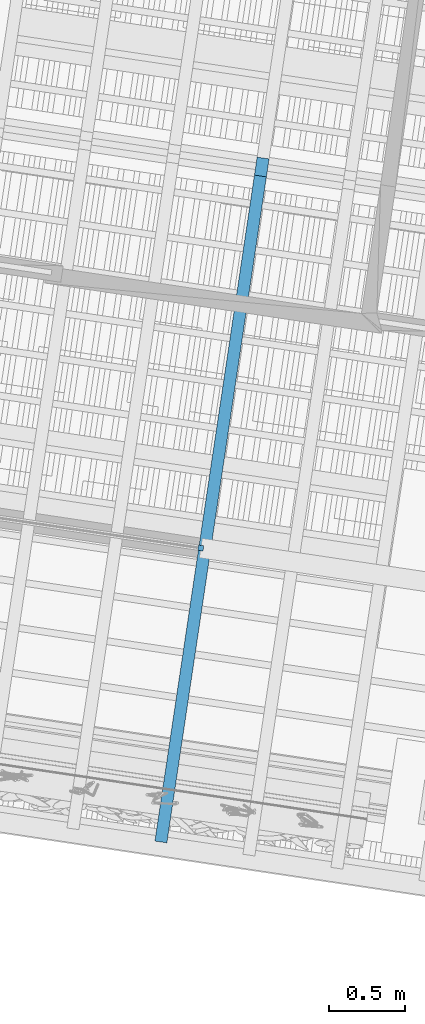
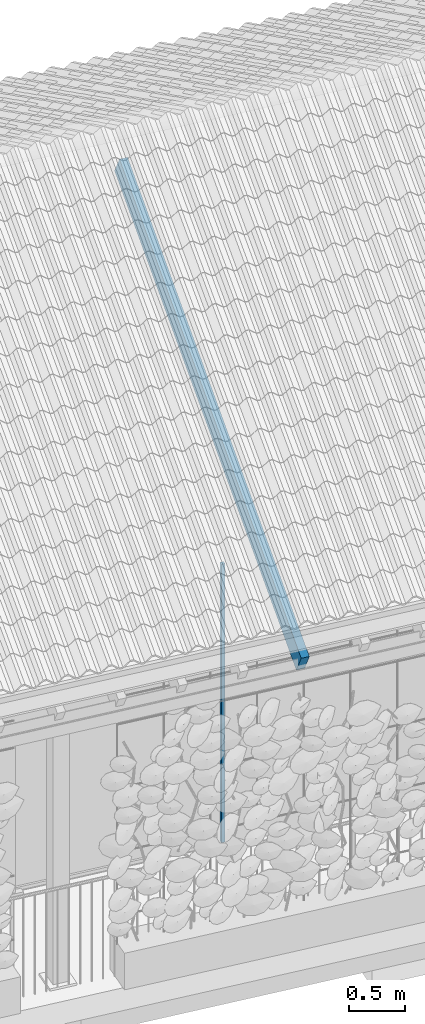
# One storey, part 79 of 131: 2 members, 1 element without a shape of its own.
"""IFC4 building model written with IfcOpenShell, lengths in metres."""

from ifc_helpers import new_model, si_unit, direction, frame, origin_with_axes, place, context, subcontext, project, spatial, rectangle, extrude, material, material_profile, profile_set, profile_usage, type_object, element, aggregate, save


model = new_model("IFC4")

# Units and contexts
model_context = context("Model", 3, precision=1e-05, world=origin_with_axes(), true_north=direction((0.0, 1.0)))
body_context = subcontext(model_context, "Body", "Model", "MODEL_VIEW")
ifc_project = project(units=[si_unit("AREAUNIT", "SQUARE_METRE"), si_unit("VOLUMEUNIT", "CUBIC_METRE"), si_unit("LENGTHUNIT", "METRE")], contexts=[model_context])

# Site, building, storey
site_placement = place(None, origin_with_axes())
site = spatial("IfcSite", under=ifc_project, at=site_placement, Name="Lares · Rua das Mercês · artigo 4771")
building_placement = place(site_placement, frame((15.0, 9.7, 14.65), z_axis=(0.0, 0.0, 1.0), x_axis=(0.989015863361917, -0.147809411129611, 0.0)))
building = spatial("IfcBuilding", under=site, at=building_placement, Name="Casa Sobreposta")
storey_placement = place(building_placement, origin_with_axes())
storey = spatial("IfcBuildingStorey", under=building, at=storey_placement, Name="00 · Habitação e estacionamento", Elevation=14.65)

# Member
ifc_material_1 = material(Name="Aço pintado / Stahl lackiert", Category="steel")
ifc_material_profile_1 = material_profile(ifc_material_1, rectangle(XDim=0.035, YDim=0.035))
ifc_profile_set_1 = profile_set([ifc_material_profile_1], Name="R0.035")
ifc_profile_usage_1 = profile_usage(ifc_profile_set_1)
member_type_1 = type_object("IfcMemberType", Name="R0.035 / steel", PredefinedType="NOTDEFINED", material=ifc_profile_set_1)
member_1_placement = place(storey_placement, frame((14.1493333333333, 0.0, 0.0), z_axis=(0.0, 0.0, 1.0), x_axis=(1.0, 0.0, 0.0)))
element("IfcMember", 1, at=member_1_placement, inside=storey, type_object=member_type_1, material=ifc_profile_usage_1, Name="Folha de correr sul 6 · montante", context=body_context, shape_type="SweptSolid", body=[
    extrude(rectangle(XDim=0.035, YDim=0.035), origin_with_axes(), (0.0, 0.0, 1.0), 3.05),
])

# Roof, member
ifc_material_2 = material(Name="Madeira / Bauholz", Category="wood")
roof_placement = place(storey_placement, origin_with_axes())
roof = element("IfcRoof", 2, at=roof_placement, inside=storey, material=ifc_material_2, Name="Cobertura de telha · duas águas 30 graus", PredefinedType="GABLE_ROOF")
ifc_material_profile_2 = material_profile(ifc_material_2, rectangle(XDim=0.08, YDim=0.24))
ifc_profile_set_2 = profile_set([ifc_material_profile_2], Name="TIMBER0.080x0.240")
ifc_profile_usage_2 = profile_usage(ifc_profile_set_2)
member_type_2 = type_object("IfcMemberType", Name="TIMBER0.080x0.240 / timber", PredefinedType="NOTDEFINED", material=ifc_profile_set_2)
member_2_placement = place(roof_placement, frame((14.1757575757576, -1.9, 3.181), z_axis=(0.0, 0.866025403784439, 0.5), x_axis=(1.0, 0.0, 0.0)))
member_2 = element("IfcMember", 3, at=member_2_placement, type_object=member_type_2, material=ifc_profile_usage_2, Name="Cobertura · caibro", context=body_context, shape_type="SweptSolid", body=[
    extrude(rectangle(XDim=0.08, YDim=0.24), origin_with_axes(), (0.0, 0.0, 1.0), 5.13841739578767),
])
aggregate(roof, [member_2])

save(model, "model.ifc")
